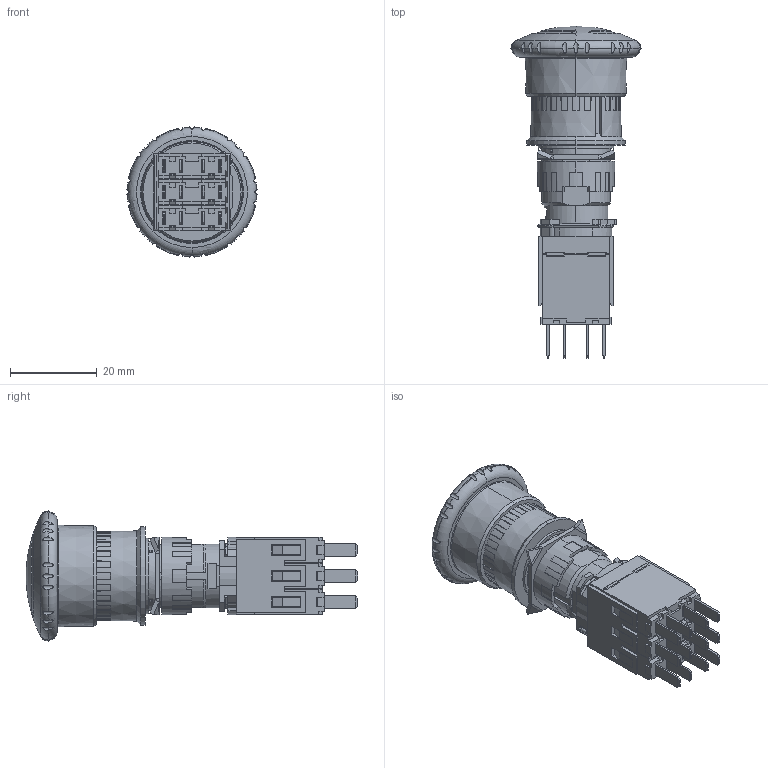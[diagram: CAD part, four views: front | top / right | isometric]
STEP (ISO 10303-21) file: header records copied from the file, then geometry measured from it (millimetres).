
FILE_DESCRIPTION((''),'2;1');
FILE_NAME('1529115ARUR_SW0003','2016-02-22T',('EBBX743'),('Schneider-Electric'),'PRO/ENGINEER BY PARAMETRIC TECHNOLOGY CORPORATION, 2014310','PRO/ENGINEER BY PARAMETRIC TECHNOLOGY CORPORATION, 2014310','');
FILE_SCHEMA(('CONFIG_CONTROL_DESIGN'));
Products named in the file (1): 1529115ARUR_SW0003
Bounding box: 29.98 x 76.54 x 29.98 mm (x, y, z)
Volume: 15673.4 mm3; surface area: 19454 mm2
Topology: 3 solids, 5 shells, 2914 faces, 8424 edges, 5436 vertices
Faces by surface type: plane 2240, cylinder 378, cone 122, torus 66, extrusion 46, sphere 44, bspline 18
Entity records: 98558 total; most frequent: CARTESIAN_POINT 21675, ORIENTED_EDGE 16808, DIRECTION 15086, EDGE_CURVE 8404, VECTOR 6532, LINE 6486, VERTEX_POINT 5436, AXIS2_PLACEMENT_3D 4277
